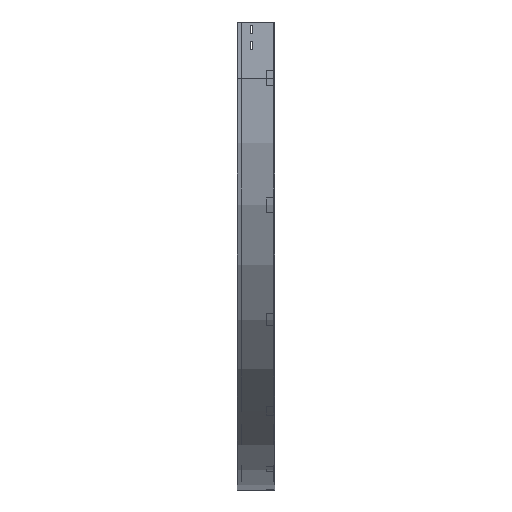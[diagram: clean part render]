
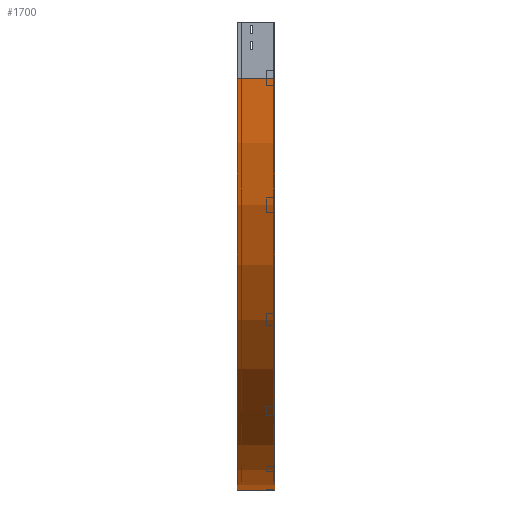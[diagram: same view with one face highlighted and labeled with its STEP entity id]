
A CAD part, left-side view. The second image highlights one B-rep face of the part: STEP entity #1700.
In plain terms, the highlighted cylindrical face has radius 1100 mm (diameter 2200 mm), a partial arc.
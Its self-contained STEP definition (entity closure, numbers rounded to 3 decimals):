
#58 = CARTESIAN_POINT ( 'NONE',  ( 1100., 0., -150. ) ) ;
#246 = ORIENTED_EDGE ( 'NONE', *, *, #3064, .F. ) ;
#406 = VERTEX_POINT ( 'NONE', #1080 ) ;
#489 = DIRECTION ( 'NONE',  ( 0., -1., 0. ) ) ;
#497 = CARTESIAN_POINT ( 'NONE',  ( 1100., 0., -1250. ) ) ;
#591 = EDGE_LOOP ( 'NONE', ( #2397, #246, #3497, #1854 ) ) ;
#804 = VECTOR ( 'NONE', #489, 1000. ) ;
#921 = CIRCLE ( 'NONE', #1427, 1100. ) ;
#937 = DIRECTION ( 'NONE',  ( 0., -1., 0. ) ) ;
#1080 = CARTESIAN_POINT ( 'NONE',  ( 0., 100., -150. ) ) ;
#1155 = DIRECTION ( 'NONE',  ( 0., -1., 0. ) ) ;
#1224 = CARTESIAN_POINT ( 'NONE',  ( 0., 0., -150. ) ) ;
#1257 = CARTESIAN_POINT ( 'NONE',  ( 1100., 100., -150. ) ) ;
#1390 = CARTESIAN_POINT ( 'NONE',  ( 1100., 0., -1250. ) ) ;
#1427 = AXIS2_PLACEMENT_3D ( 'NONE', #1257, #937, #3402 ) ;
#1601 = CARTESIAN_POINT ( 'NONE',  ( 0., 0., -150. ) ) ;
#1700 = ADVANCED_FACE ( 'NONE', ( #3589 ), #2743, .T. ) ;
#1854 = ORIENTED_EDGE ( 'NONE', *, *, #1976, .T. ) ;
#1899 = LINE ( 'NONE', #1601, #804 ) ;
#1976 = EDGE_CURVE ( 'NONE', #2470, #3831, #2420, .T. ) ;
#2054 = DIRECTION ( 'NONE',  ( 0., -1., 0. ) ) ;
#2104 = VERTEX_POINT ( 'NONE', #1224 ) ;
#2223 = VECTOR ( 'NONE', #2054, 1000. ) ;
#2250 = AXIS2_PLACEMENT_3D ( 'NONE', #3265, #1155, #3808 ) ;
#2387 = DIRECTION ( 'NONE',  ( 0., 0., -1. ) ) ;
#2397 = ORIENTED_EDGE ( 'NONE', *, *, #3369, .F. ) ;
#2420 = LINE ( 'NONE', #1390, #2223 ) ;
#2470 = VERTEX_POINT ( 'NONE', #3105 ) ;
#2743 = CYLINDRICAL_SURFACE ( 'NONE', #3173, 1100. ) ;
#2781 = DIRECTION ( 'NONE',  ( 0., -1., 0. ) ) ;
#2904 = EDGE_CURVE ( 'NONE', #406, #2470, #921, .T. ) ;
#3064 = EDGE_CURVE ( 'NONE', #406, #2104, #1899, .T. ) ;
#3105 = CARTESIAN_POINT ( 'NONE',  ( 1100., 100., -1250. ) ) ;
#3173 = AXIS2_PLACEMENT_3D ( 'NONE', #58, #2781, #2387 ) ;
#3259 = CIRCLE ( 'NONE', #2250, 1100. ) ;
#3265 = CARTESIAN_POINT ( 'NONE',  ( 1100., 0., -150. ) ) ;
#3369 = EDGE_CURVE ( 'NONE', #2104, #3831, #3259, .T. ) ;
#3402 = DIRECTION ( 'NONE',  ( -1., 0., 0. ) ) ;
#3497 = ORIENTED_EDGE ( 'NONE', *, *, #2904, .T. ) ;
#3589 = FACE_OUTER_BOUND ( 'NONE', #591, .T. ) ;
#3808 = DIRECTION ( 'NONE',  ( -1., 0., 0. ) ) ;
#3831 = VERTEX_POINT ( 'NONE', #497 ) ;
